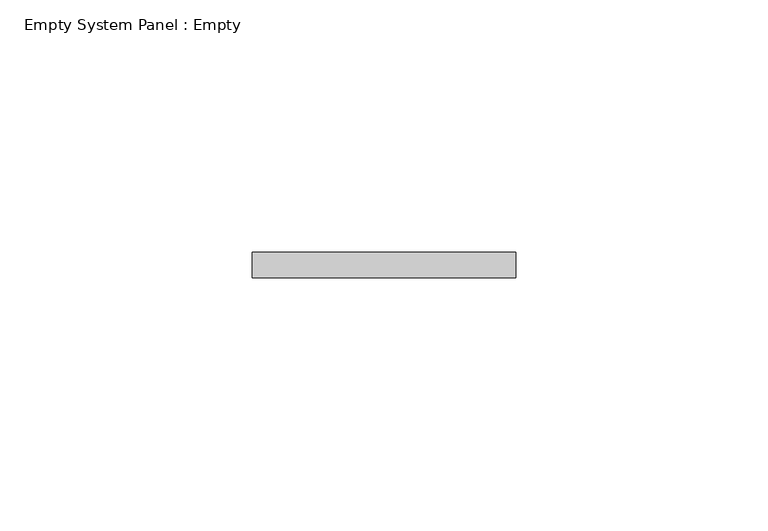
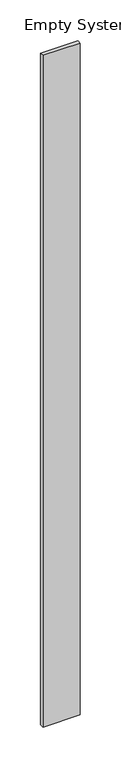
"""IFC4 building model written with IfcOpenShell, lengths in millimetres: plate geometry, Empty System Panel : Empty."""

from ifc_helpers import new_model, si_unit, origin, origin_with_axes, place, context, project, spatial, polyline, outline, extrude, source, transform, mapped, element, save


def empty_system_panel_empty_83ace052(model_context):
    return source(origin(), model_context, "Body", "SweptSolid", [
        extrude(outline(polyline([(26.1050986, 97.5), (-26.1050986, 97.5), (-26.1050986, 102.5), (26.1050986, 102.5), (26.1050986, 97.5)])), origin_with_axes(), (0.0, 0.0, 1.0), 1000.0),
    ])


if __name__ == "__main__":
    model = new_model("IFC4")
    model_context = context("Model", 3, world=origin())
    ifc_project = project(units=[si_unit("LENGTHUNIT", "METRE", prefix="MILLI")], contexts=[model_context])
    site = spatial("IfcSite", under=ifc_project)
    building = spatial("IfcBuilding", under=site)
    placement = place(None, origin())
    empty_system_panel_empty_shape = empty_system_panel_empty_83ace052(model_context)
    element("IfcPlate", 1, ObjectType="Empty System Panel : Empty", at=placement, inside=building, context=model_context, shape_type="MappedRepresentation", body=[
        mapped(empty_system_panel_empty_shape, transform((0.0, 0.0, 0.0), x_axis=(1.0, 0.0, 0.0), y_axis=(0.0, 1.0, 0.0), z_axis=(0.0, 0.0, 1.0))),
    ])
    save(model, "model.ifc")
